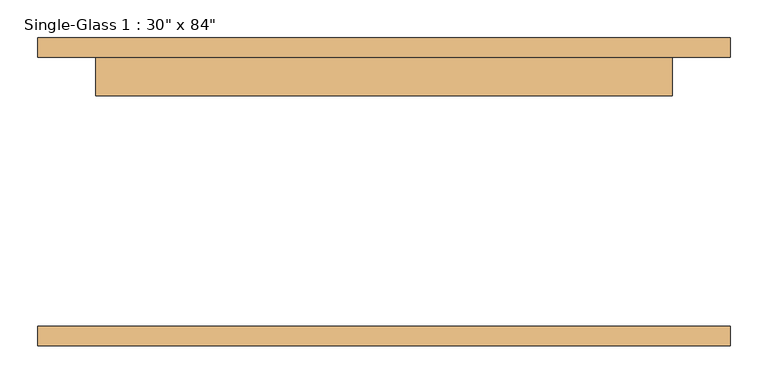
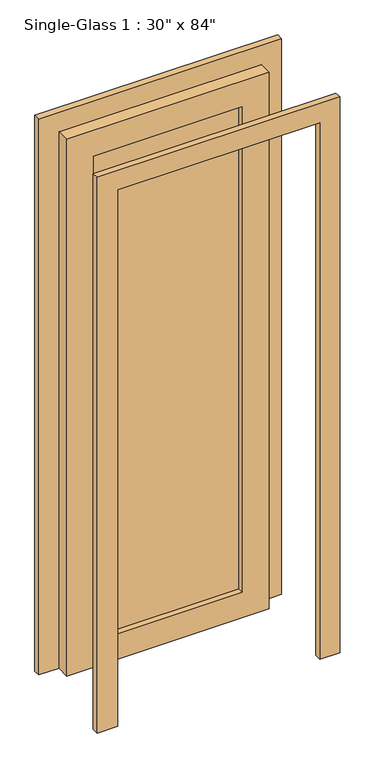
"""IFC4 building model written with IfcOpenShell, lengths in millimetres: door geometry."""

from ifc_helpers import new_model, si_unit, frame, origin, place, context, project, spatial, polyline, outline, extrude, source, transform, mapped, element, save


def door_13a3dc64(model_context):
    return source(origin(), model_context, "Body", "SweptSolid", [
        extrude(outline(polyline([(2133.6, 381.0), (0.0, 381.0), (0.0, 457.2), (2209.8, 457.2), (2209.8, -457.2), (0.0, -457.2), (0.0, -381.0), (2133.6, -381.0), (2133.6, 381.0)])), frame((0.0, -203.2, 0.0), z_axis=(0.0, 1.0, 0.0), x_axis=(0.0, 0.0, 1.0)), (0.0, 0.0, 1.0), 25.4),
        extrude(outline(polyline([(2133.6, 381.0), (0.0, 381.0), (0.0, 457.2), (2209.8, 457.2), (2209.8, -457.2), (0.0, -457.2), (0.0, -381.0), (2133.6, -381.0), (2133.6, 381.0)])), frame((0.0, 177.8, 0.0), z_axis=(0.0, 1.0, 0.0), x_axis=(0.0, 0.0, 1.0)), (0.0, 0.0, 1.0), 25.4),
        extrude(outline(polyline([(279.4, 149.225), (-279.4, 149.225), (-279.4, 155.575), (279.4, 155.575), (279.4, 149.225)])), frame((0.0, 0.0, 101.6), z_axis=(0.0, 0.0, 1.0), x_axis=(1.0, 0.0, 0.0)), (0.0, 0.0, 1.0), 1930.4),
        extrude(outline(polyline([(2133.6, 381.0), (2133.6, -381.0), (0.0, -381.0), (0.0, 381.0), (2133.6, 381.0)]), holes=[polyline([(2032.0, -279.4), (2032.0, 279.4), (101.6, 279.4), (101.6, -279.4), (2032.0, -279.4)])]), frame((0.0, 127.0, 0.0), z_axis=(0.0, 1.0, 0.0), x_axis=(0.0, 0.0, 1.0)), (0.0, 0.0, 1.0), 50.8),
    ])


if __name__ == "__main__":
    model = new_model("IFC4")
    model_context = context("Model", 3, world=origin())
    ifc_project = project(units=[si_unit("LENGTHUNIT", "METRE", prefix="MILLI")], contexts=[model_context])
    site = spatial("IfcSite", under=ifc_project)
    building = spatial("IfcBuilding", under=site)
    placement = place(None, origin())
    door_shape = door_13a3dc64(model_context)
    element("IfcDoor", 1, ObjectType="Single-Glass 1 : 30\" x 84\"", at=placement, inside=building, context=model_context, shape_type="MappedRepresentation", body=[
        mapped(door_shape, transform((0.0, 0.0, 0.0), x_axis=(1.0, 0.0, 0.0), y_axis=(0.0, 1.0, 0.0), z_axis=(0.0, 0.0, 1.0))),
    ])
    save(model, "model.ifc")
